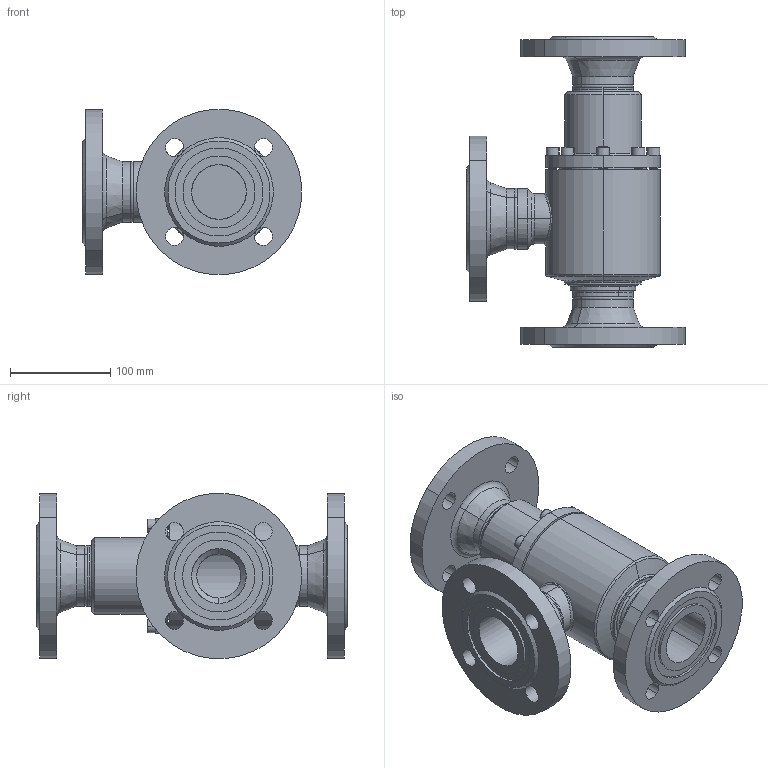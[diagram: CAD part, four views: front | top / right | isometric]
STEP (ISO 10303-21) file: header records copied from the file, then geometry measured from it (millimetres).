
FILE_DESCRIPTION (( 'STEP AP214' ), '1' );
FILE_NAME ('TR47020B15-DN50_DIN_PS25.STEP', '2005-08-10T11:23:51', ( 'Herr Grams' ), ( 'AWP GmbH' ), 'SwSTEP 2.0', 'SolidWorks 2002296', '' );
FILE_SCHEMA (( 'AUTOMOTIVE_DESIGN' ));
Length unit declared in the file: millimetre
Products named in the file (15): TR47020B15-DN50_DIN_PS25; TR47000B15-DN50_R1_PS25_Standard; Geh-kpl47000B15-DN50_PS25_R1_Standard; RohrstutzA47000E15-DN50_PS40_R1_Standard; Stutzenteil47000E15_DN50_PS40_R1_Standard; Geh47000E15_DN50_PS40_R1_Standard; Kehlnaht15-2_Standard; bead15-3_Standard; Deckel47000B15_DN50_PS25_R1_Standard; Führungsring47050-15-DN50_Standard; Zylinderschraube-DIN912-M 8x22_M 8x 22; Flansch-DIN-Nut_PS40_DIN-Flansch-DN050_PS40-Nut; TR50-3_Standard; TR50-2_Standard; TR50-1_Standard
Assembly tree (23 placements, depth 4):
  TR47020B15-DN50_DIN_PS25
    TR47000B15-DN50_R1_PS25_Standard
      Zylinderschraube-DIN912-M 8x22_M 8x 22  x8
      Deckel47000B15_DN50_PS25_R1_Standard
      Führungsring47050-15-DN50_Standard
      Geh-kpl47000B15-DN50_PS25_R1_Standard
        bead15-3_Standard
        Geh47000E15_DN50_PS40_R1_Standard
        Kehlnaht15-2_Standard
        Stutzenteil47000E15_DN50_PS40_R1_Standard
        RohrstutzA47000E15-DN50_PS40_R1_Standard
    TR50-2_Standard
    Flansch-DIN-Nut_PS40_DIN-Flansch-DN050_PS40-Nut  x3
    TR50-3_Standard
    TR50-1_Standard
Bounding box: 218.19 x 309.5 x 164.37 mm (x, y, z)
Volume: 1872144.6 mm3; surface area: 391081.9 mm2
Topology: 21 solids, 21 shells, 693 faces, 1798 edges, 1168 vertices
Faces by surface type: cylinder 430, plane 133, cone 62, torus 38, bspline 30
Entity records: 26848 total; most frequent: CARTESIAN_POINT 19893, ORIENTED_EDGE 1240, DIRECTION 1222, EDGE_CURVE 620, AXIS2_PLACEMENT_3D 513, VERTEX_POINT 396, EDGE_LOOP 320, ADVANCED_FACE 255
